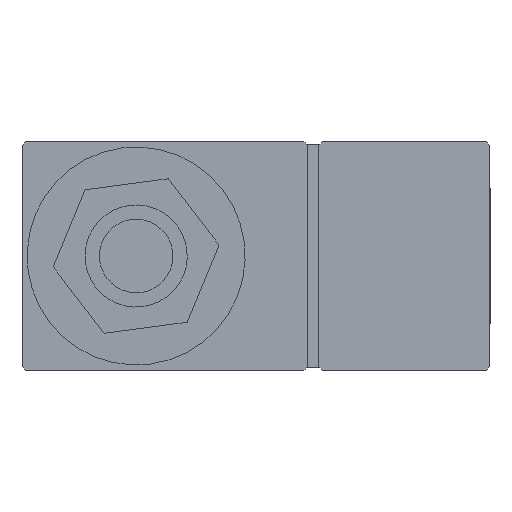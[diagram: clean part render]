
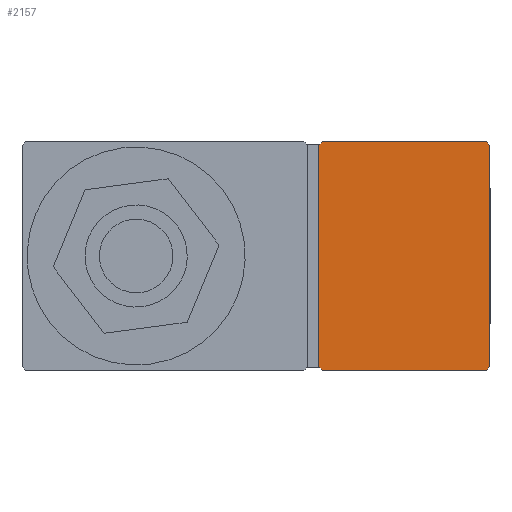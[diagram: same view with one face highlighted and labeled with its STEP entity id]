
A CAD part, left-side view. The second image highlights one B-rep face of the part: STEP entity #2157.
In plain terms, the highlighted planar face has unit normal (-1, 0, 0).
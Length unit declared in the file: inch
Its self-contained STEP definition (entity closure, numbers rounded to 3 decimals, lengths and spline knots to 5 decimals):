
#73 = EDGE_CURVE ( 'NONE', #1108, #3786, #3266, .T. ) ;
#174 = VECTOR ( 'NONE', #1304, 39.37008 ) ;
#194 = CARTESIAN_POINT ( 'NONE',  ( -5.31496, -0.94488, 0.3937 ) ) ;
#225 = EDGE_CURVE ( 'NONE', #248, #1606, #3314, .T. ) ;
#248 = VERTEX_POINT ( 'NONE', #3607 ) ;
#278 = CARTESIAN_POINT ( 'NONE',  ( -5.31496, -0.66142, 0.3937 ) ) ;
#294 = PLANE ( 'NONE',  #3965 ) ;
#315 = ORIENTED_EDGE ( 'NONE', *, *, #1828, .T. ) ;
#404 = VERTEX_POINT ( 'NONE', #1118 ) ;
#424 = CARTESIAN_POINT ( 'NONE',  ( -5.31496, -0.64961, 0.3937 ) ) ;
#431 = CARTESIAN_POINT ( 'NONE',  ( -5.31496, -1.22835, -0.3937 ) ) ;
#496 = LINE ( 'NONE', #431, #2071 ) ;
#530 = DIRECTION ( 'NONE',  ( 0., -0.707, -0.707 ) ) ;
#590 = LINE ( 'NONE', #194, #2621 ) ;
#628 = CARTESIAN_POINT ( 'NONE',  ( -5.31496, -0.66142, -0.3937 ) ) ;
#648 = ORIENTED_EDGE ( 'NONE', *, *, #3343, .T. ) ;
#746 = DIRECTION ( 'NONE',  ( 0., 0.707, 0.707 ) ) ;
#767 = VECTOR ( 'NONE', #746, 39.37008 ) ;
#768 = LINE ( 'NONE', #424, #4168 ) ;
#802 = DIRECTION ( 'NONE',  ( 0., -0.707, 0.707 ) ) ;
#836 = CARTESIAN_POINT ( 'NONE',  ( -5.31496, -0.64961, -0.38189 ) ) ;
#877 = VERTEX_POINT ( 'NONE', #3528 ) ;
#1054 = VECTOR ( 'NONE', #530, 39.37008 ) ;
#1095 = CARTESIAN_POINT ( 'NONE',  ( -5.31496, -1.24016, 0.38189 ) ) ;
#1108 = VERTEX_POINT ( 'NONE', #1374 ) ;
#1118 = CARTESIAN_POINT ( 'NONE',  ( -5.31496, -0.64961, -0.38189 ) ) ;
#1204 = LINE ( 'NONE', #836, #1054 ) ;
#1304 = DIRECTION ( 'NONE',  ( 0., 1., 0. ) ) ;
#1308 = CARTESIAN_POINT ( 'NONE',  ( -5.31496, -0.94488, 0. ) ) ;
#1374 = CARTESIAN_POINT ( 'NONE',  ( -5.31496, -1.22835, -0.3937 ) ) ;
#1419 = DIRECTION ( 'NONE',  ( 0., 0., -1. ) ) ;
#1488 = CARTESIAN_POINT ( 'NONE',  ( -5.31496, -1.24016, -0.38189 ) ) ;
#1498 = ORIENTED_EDGE ( 'NONE', *, *, #225, .T. ) ;
#1606 = VERTEX_POINT ( 'NONE', #1844 ) ;
#1613 = LINE ( 'NONE', #2306, #3769 ) ;
#1828 = EDGE_CURVE ( 'NONE', #1108, #2874, #496, .T. ) ;
#1844 = CARTESIAN_POINT ( 'NONE',  ( -5.31496, -1.22835, 0.3937 ) ) ;
#1941 = ORIENTED_EDGE ( 'NONE', *, *, #3512, .T. ) ;
#2071 = VECTOR ( 'NONE', #802, 39.37008 ) ;
#2157 = ADVANCED_FACE ( 'NONE', ( #2845 ), #294, .F. ) ;
#2288 = EDGE_CURVE ( 'NONE', #877, #404, #768, .T. ) ;
#2306 = CARTESIAN_POINT ( 'NONE',  ( -5.31496, -0.66142, 0.3937 ) ) ;
#2614 = DIRECTION ( 'NONE',  ( 1., 0., 0. ) ) ;
#2621 = VECTOR ( 'NONE', #3787, 39.37008 ) ;
#2753 = ORIENTED_EDGE ( 'NONE', *, *, #2869, .F. ) ;
#2845 = FACE_OUTER_BOUND ( 'NONE', #3506, .T. ) ;
#2866 = CARTESIAN_POINT ( 'NONE',  ( -5.31496, -1.24016, 0. ) ) ;
#2869 = EDGE_CURVE ( 'NONE', #3688, #1606, #590, .T. ) ;
#2874 = VERTEX_POINT ( 'NONE', #1488 ) ;
#2912 = DIRECTION ( 'NONE',  ( 0., 0., -1. ) ) ;
#2982 = EDGE_CURVE ( 'NONE', #248, #2874, #4157, .T. ) ;
#3058 = ORIENTED_EDGE ( 'NONE', *, *, #73, .F. ) ;
#3258 = DIRECTION ( 'NONE',  ( 0., 0.707, -0.707 ) ) ;
#3266 = LINE ( 'NONE', #3539, #174 ) ;
#3314 = LINE ( 'NONE', #1095, #767 ) ;
#3343 = EDGE_CURVE ( 'NONE', #404, #3786, #1204, .T. ) ;
#3506 = EDGE_LOOP ( 'NONE', ( #1498, #2753, #1941, #4080, #648, #3058, #315, #3931 ) ) ;
#3512 = EDGE_CURVE ( 'NONE', #3688, #877, #1613, .T. ) ;
#3528 = CARTESIAN_POINT ( 'NONE',  ( -5.31496, -0.64961, 0.38189 ) ) ;
#3539 = CARTESIAN_POINT ( 'NONE',  ( -5.31496, -0.94488, -0.3937 ) ) ;
#3607 = CARTESIAN_POINT ( 'NONE',  ( -5.31496, -1.24016, 0.38189 ) ) ;
#3688 = VERTEX_POINT ( 'NONE', #278 ) ;
#3769 = VECTOR ( 'NONE', #3258, 39.37008 ) ;
#3786 = VERTEX_POINT ( 'NONE', #628 ) ;
#3787 = DIRECTION ( 'NONE',  ( 0., -1., 0. ) ) ;
#3902 = DIRECTION ( 'NONE',  ( 0., 1., 0. ) ) ;
#3931 = ORIENTED_EDGE ( 'NONE', *, *, #2982, .F. ) ;
#3965 = AXIS2_PLACEMENT_3D ( 'NONE', #1308, #2614, #3902 ) ;
#4080 = ORIENTED_EDGE ( 'NONE', *, *, #2288, .T. ) ;
#4113 = VECTOR ( 'NONE', #2912, 39.37008 ) ;
#4157 = LINE ( 'NONE', #2866, #4113 ) ;
#4168 = VECTOR ( 'NONE', #1419, 39.37008 ) ;
